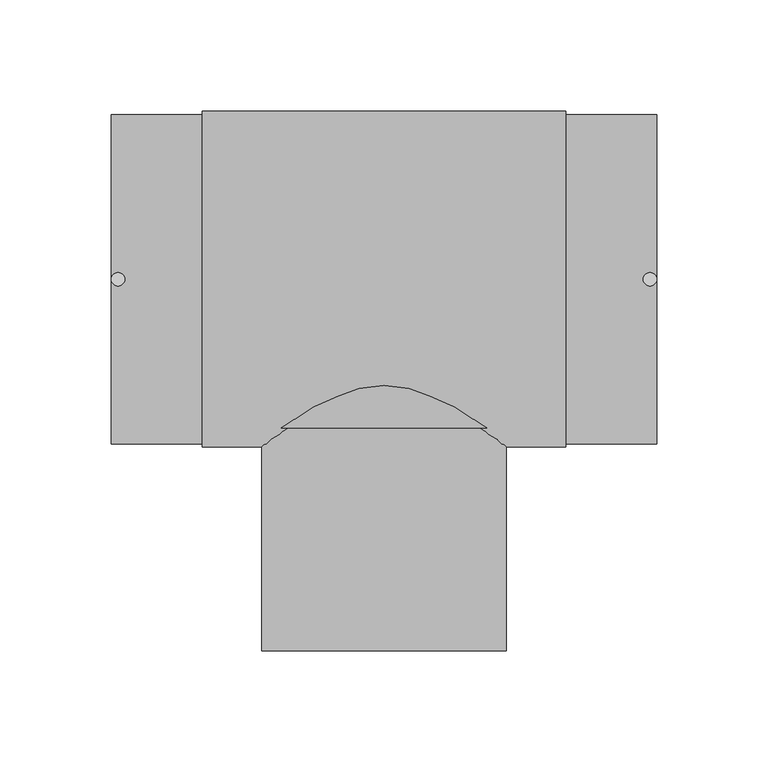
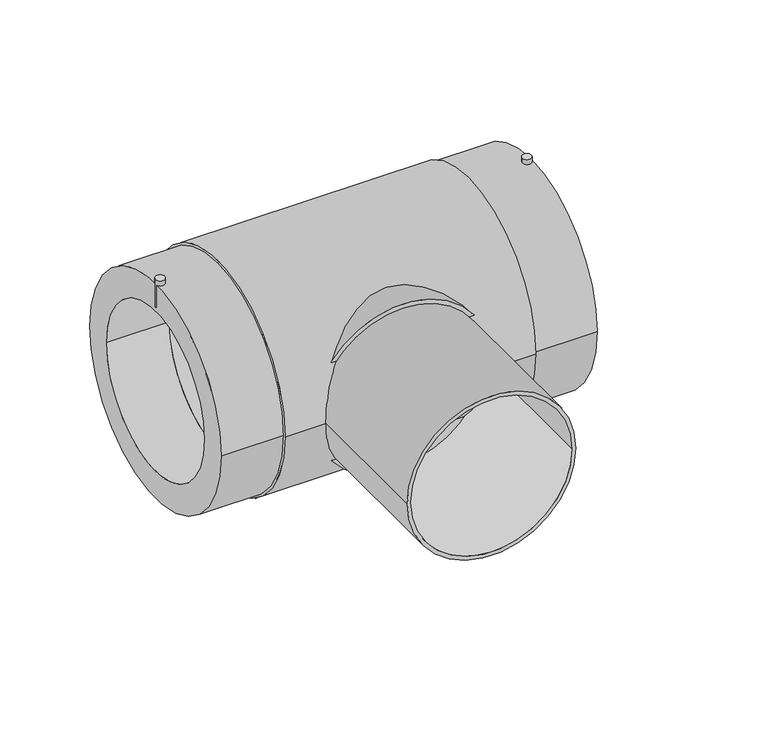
"""IFC4 building model written with IfcOpenShell, lengths in millimetres: pipe fitting geometry, EGB_VASEN_ PPR_Te electrosoldable WXRD300_Te reducida electrosoldable WXRD310 : Te electrosoldable."""

from ifc_helpers import new_model, si_unit, point, frame, frame_2d, origin, origin_2d, place, context, project, spatial, circle_curve, trimmed, segment, composite_curve, outline, extrude, source, transform, mapped, element, save


def pipe_fitting_b3a22386(model_context):
    return source(origin(), model_context, "Body", "SweptSolid", [
        extrude(outline(composite_curve([segment(trimmed(circle_curve(frame_2d((-119.5, 0.0)), 3.0), [point((-122.5, 0.0))], [point((-116.5, 0.0))], False, "CARTESIAN"), True, "CONTINUOUS"), segment(trimmed(circle_curve(frame_2d((-119.5, 0.0)), 3.0), [point((-116.5, 0.0))], [point((-122.5, 0.0))], False, "CARTESIAN"), True, "CONTINUOUS")], self_intersect=False)), frame((0.0, 0.0, 58.0), z_axis=(0.0, 0.0, 1.0), x_axis=(1.0, 0.0, 0.0)), (0.0, 0.0, 1.0), 19.0),
        extrude(outline(composite_curve([segment(trimmed(circle_curve(frame_2d((119.5, 0.0)), 3.0), [point((116.5, 0.0))], [point((122.5, 0.0))], False, "CARTESIAN"), True, "CONTINUOUS"), segment(trimmed(circle_curve(frame_2d((119.5, 0.0)), 3.0), [point((122.5, 0.0))], [point((116.5, 0.0))], False, "CARTESIAN"), True, "CONTINUOUS")], self_intersect=False)), frame((0.0, 0.0, 58.0), z_axis=(0.0, 0.0, 1.0), x_axis=(1.0, 0.0, 0.0)), (0.0, 0.0, 1.0), 19.0),
        extrude(outline(composite_curve([segment(trimmed(circle_curve(origin_2d(), 57.5), [point((0.0, 57.5))], [point((0.0, -57.5))], False, "CARTESIAN"), True, "CONTINUOUS"), segment(trimmed(circle_curve(origin_2d(), 57.5), [point((0.0, -57.5))], [point((0.0, 57.5))], False, "CARTESIAN"), True, "CONTINUOUS")], self_intersect=False)), frame((0.0, -66.8, 0.0), z_axis=(0.0, 1.0, 0.0), x_axis=(0.0, 0.0, 1.0)), (0.0, 0.0, 1.0), 66.8),
        extrude(outline(composite_curve([segment(trimmed(circle_curve(origin_2d(), 55.0), [point((0.0, -55.0))], [point((0.0, 55.0))], False, "CARTESIAN"), True, "CONTINUOUS"), segment(trimmed(circle_curve(origin_2d(), 55.0), [point((0.0, 55.0))], [point((0.0, -55.0))], False, "CARTESIAN"), True, "CONTINUOUS")], self_intersect=False), holes=[composite_curve([segment(trimmed(circle_curve(origin_2d(), 52.5), [point((0.0, -52.5))], [point((0.0, 52.5))], True, "CARTESIAN"), True, "CONTINUOUS"), segment(trimmed(circle_curve(origin_2d(), 52.5), [point((0.0, 52.5))], [point((0.0, -52.5))], True, "CARTESIAN"), True, "CONTINUOUS")], self_intersect=False)]), frame((0.0, -167.0, 0.0), z_axis=(0.0, 1.0, 0.0), x_axis=(0.0, 0.0, 1.0)), (0.0, 0.0, 1.0), 100.2),
        extrude(outline(composite_curve([segment(trimmed(circle_curve(origin_2d(), 75.5), [point((-75.5, 0.0))], [point((75.5, 0.0))], False, "CARTESIAN"), True, "CONTINUOUS"), segment(trimmed(circle_curve(origin_2d(), 75.5), [point((75.5, 0.0))], [point((-75.5, 0.0))], False, "CARTESIAN"), True, "CONTINUOUS")], self_intersect=False), holes=[composite_curve([segment(trimmed(circle_curve(origin_2d(), 55.0), [point((-55.0, 0.0))], [point((55.0, 0.0))], True, "CARTESIAN"), True, "CONTINUOUS"), segment(trimmed(circle_curve(origin_2d(), 55.0), [point((55.0, 0.0))], [point((-55.0, 0.0))], True, "CARTESIAN"), True, "CONTINUOUS")], self_intersect=False)]), frame((-81.6666667, 0.0, 0.0), z_axis=(1.0, 0.0, 0.0), x_axis=(0.0, 1.0, 0.0)), (0.0, 0.0, 1.0), 163.3333333),
        extrude(outline(composite_curve([segment(trimmed(circle_curve(origin_2d(), 74.0), [point((-74.0, 0.0))], [point((74.0, 0.0))], False, "CARTESIAN"), True, "CONTINUOUS"), segment(trimmed(circle_curve(origin_2d(), 74.0), [point((74.0, 0.0))], [point((-74.0, 0.0))], False, "CARTESIAN"), True, "CONTINUOUS")], self_intersect=False), holes=[composite_curve([segment(trimmed(circle_curve(origin_2d(), 55.0), [point((-55.0, 0.0))], [point((55.0, 0.0))], True, "CARTESIAN"), True, "CONTINUOUS"), segment(trimmed(circle_curve(origin_2d(), 55.0), [point((55.0, 0.0))], [point((-55.0, 0.0))], True, "CARTESIAN"), True, "CONTINUOUS")], self_intersect=False)]), frame((-122.5, 0.0, 0.0), z_axis=(1.0, 0.0, 0.0), x_axis=(0.0, 1.0, 0.0)), (0.0, 0.0, 1.0), 245.0),
    ])


if __name__ == "__main__":
    model = new_model("IFC4")
    model_context = context("Model", 3, world=origin())
    ifc_project = project(units=[si_unit("LENGTHUNIT", "METRE", prefix="MILLI")], contexts=[model_context])
    site = spatial("IfcSite", under=ifc_project)
    building = spatial("IfcBuilding", under=site)
    placement = place(None, origin())
    pipe_fitting_shape = pipe_fitting_b3a22386(model_context)
    element("IfcPipeFitting", 1, ObjectType="EGB_VASEN_ PPR_Te electrosoldable WXRD300_Te reducida electrosoldable WXRD310 : Te electrosoldable", at=placement, inside=building, context=model_context, shape_type="MappedRepresentation", body=[
        mapped(pipe_fitting_shape, transform((0.0, 0.0, 0.0), x_axis=(1.0, 0.0, 0.0), y_axis=(0.0, 1.0, 0.0), z_axis=(0.0, 0.0, 1.0))),
    ])
    save(model, "model.ifc")
